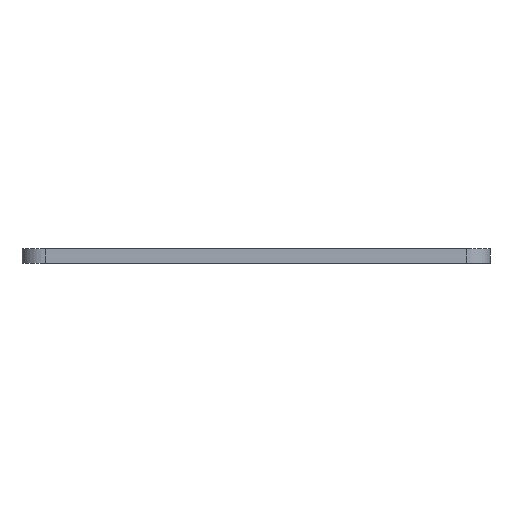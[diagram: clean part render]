
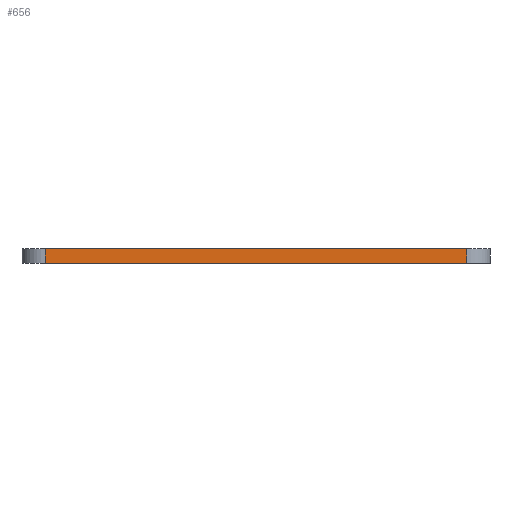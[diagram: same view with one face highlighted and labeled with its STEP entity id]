
A CAD part, left-side view. The second image highlights one B-rep face of the part: STEP entity #656.
In plain terms, the highlighted planar face has unit normal (-1, 0, 0).
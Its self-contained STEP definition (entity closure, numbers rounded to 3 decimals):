
#629=AXIS2_PLACEMENT_3D('Plane Axis2P3D',#626,#627,#628) ;
#233=CARTESIAN_POINT('Vertex',(0.,95.,3.)) ;
#236=CARTESIAN_POINT('Line Origine',(0.,50.,3.)) ;
#240=CARTESIAN_POINT('Vertex',(0.,5.,3.)) ;
#626=CARTESIAN_POINT('Axis2P3D Location',(0.,100.,0.)) ;
#631=CARTESIAN_POINT('Line Origine',(0.,95.,1.5)) ;
#635=CARTESIAN_POINT('Vertex',(0.,95.,0.)) ;
#638=CARTESIAN_POINT('Line Origine',(0.,50.,0.)) ;
#642=CARTESIAN_POINT('Vertex',(0.,5.,0.)) ;
#645=CARTESIAN_POINT('Line Origine',(0.,5.,1.5)) ;
#237=DIRECTION('Vector Direction',(0.,-1.,0.)) ;
#627=DIRECTION('Axis2P3D Direction',(-1.,0.,0.)) ;
#628=DIRECTION('Axis2P3D XDirection',(0.,-1.,0.)) ;
#632=DIRECTION('Vector Direction',(0.,0.,1.)) ;
#639=DIRECTION('Vector Direction',(0.,-1.,0.)) ;
#646=DIRECTION('Vector Direction',(0.,0.,1.)) ;
#238=VECTOR('Line Direction',#237,1.) ;
#633=VECTOR('Line Direction',#632,1.) ;
#640=VECTOR('Line Direction',#639,1.) ;
#647=VECTOR('Line Direction',#646,1.) ;
#651=ORIENTED_EDGE('',*,*,#242,.F.) ;
#652=ORIENTED_EDGE('',*,*,#637,.F.) ;
#653=ORIENTED_EDGE('',*,*,#644,.T.) ;
#654=ORIENTED_EDGE('',*,*,#649,.T.) ;
#656=ADVANCED_FACE('\X2\96F64EF651E04F554F53\X0\',(#655),#630,.T.) ;
#242=EDGE_CURVE('',#234,#241,#239,.T.) ;
#637=EDGE_CURVE('',#636,#234,#634,.T.) ;
#644=EDGE_CURVE('',#636,#643,#641,.T.) ;
#649=EDGE_CURVE('',#643,#241,#648,.T.) ;
#650=EDGE_LOOP('',(#651,#652,#653,#654)) ;
#655=FACE_OUTER_BOUND('',#650,.T.) ;
#239=LINE('Line',#236,#238) ;
#634=LINE('Line',#631,#633) ;
#641=LINE('Line',#638,#640) ;
#648=LINE('Line',#645,#647) ;
#630=PLANE('',#629) ;
#234=VERTEX_POINT('',#233) ;
#241=VERTEX_POINT('',#240) ;
#636=VERTEX_POINT('',#635) ;
#643=VERTEX_POINT('',#642) ;
